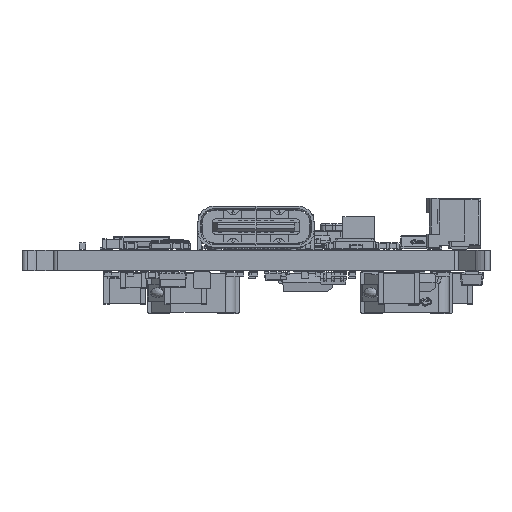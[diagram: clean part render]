
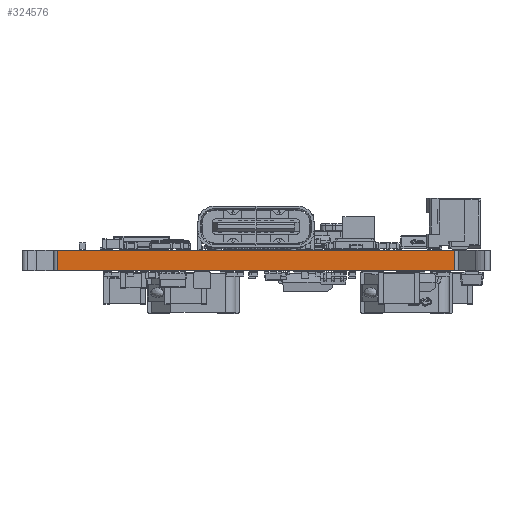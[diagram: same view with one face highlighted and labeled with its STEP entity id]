
A CAD part, left-side view. The second image highlights one B-rep face of the part: STEP entity #324576.
In plain terms, the highlighted planar face has unit normal (-1, 0, 0).
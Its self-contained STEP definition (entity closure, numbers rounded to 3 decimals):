
#323353 = VERTEX_POINT('',#323354);
#323354 = CARTESIAN_POINT('',(82.,-84.718,0.));
#323361 = EDGE_CURVE('',#323362,#323353,#323364,.T.);
#323362 = VERTEX_POINT('',#323363);
#323363 = CARTESIAN_POINT('',(82.,-115.282,0.));
#323364 = LINE('',#323365,#323366);
#323365 = CARTESIAN_POINT('',(82.,-115.282,0.));
#323366 = VECTOR('',#323367,1.);
#323367 = DIRECTION('',(0.,1.,0.));
#323850 = VERTEX_POINT('',#323851);
#323851 = CARTESIAN_POINT('',(82.,-84.718,1.59));
#323858 = EDGE_CURVE('',#323859,#323850,#323861,.T.);
#323859 = VERTEX_POINT('',#323860);
#323860 = CARTESIAN_POINT('',(82.,-115.282,1.59));
#323861 = LINE('',#323862,#323863);
#323862 = CARTESIAN_POINT('',(82.,-115.282,1.59));
#323863 = VECTOR('',#323864,1.);
#323864 = DIRECTION('',(0.,1.,0.));
#324546 = EDGE_CURVE('',#323353,#323850,#324547,.T.);
#324547 = LINE('',#324548,#324549);
#324548 = CARTESIAN_POINT('',(82.,-84.718,0.));
#324549 = VECTOR('',#324550,1.);
#324550 = DIRECTION('',(0.,0.,1.));
#324576 = ADVANCED_FACE('',(#324577),#324588,.T.);
#324577 = FACE_BOUND('',#324578,.T.);
#324578 = EDGE_LOOP('',(#324579,#324585,#324586,#324587));
#324579 = ORIENTED_EDGE('',*,*,#324580,.T.);
#324580 = EDGE_CURVE('',#323362,#323859,#324581,.T.);
#324581 = LINE('',#324582,#324583);
#324582 = CARTESIAN_POINT('',(82.,-115.282,0.));
#324583 = VECTOR('',#324584,1.);
#324584 = DIRECTION('',(0.,0.,1.));
#324585 = ORIENTED_EDGE('',*,*,#323858,.T.);
#324586 = ORIENTED_EDGE('',*,*,#324546,.F.);
#324587 = ORIENTED_EDGE('',*,*,#323361,.F.);
#324588 = PLANE('',#324589);
#324589 = AXIS2_PLACEMENT_3D('',#324590,#324591,#324592);
#324590 = CARTESIAN_POINT('',(82.,-115.282,0.));
#324591 = DIRECTION('',(-1.,0.,0.));
#324592 = DIRECTION('',(0.,1.,0.));
